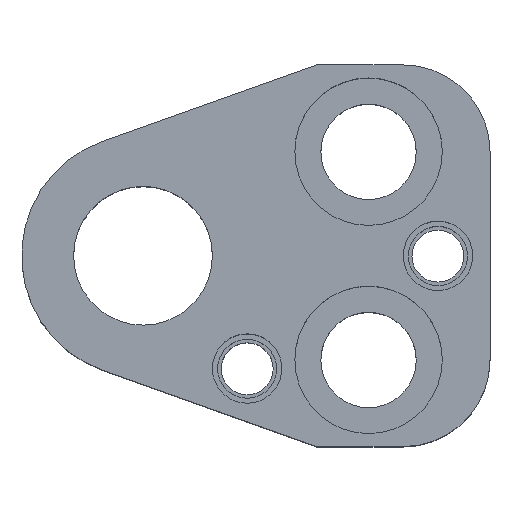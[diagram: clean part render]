
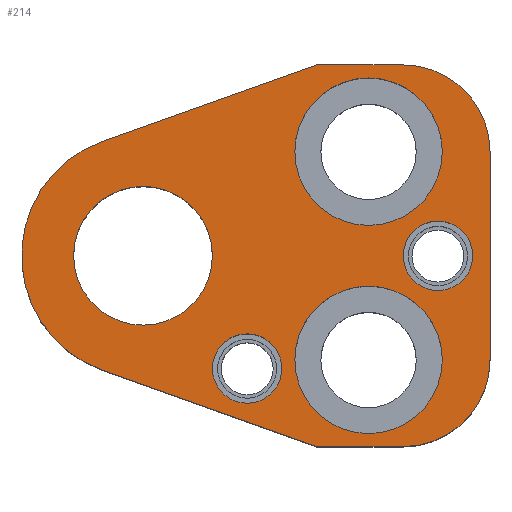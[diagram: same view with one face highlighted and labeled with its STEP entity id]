
A CAD part, top view. The second image highlights one B-rep face of the part: STEP entity #214.
In plain terms, the highlighted planar face has unit normal (0, 0, 1).
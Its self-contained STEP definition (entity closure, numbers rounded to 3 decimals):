
#100=FACE_BOUND('',#305,.T.);
#101=FACE_BOUND('',#306,.T.);
#102=FACE_BOUND('',#307,.T.);
#103=FACE_BOUND('',#308,.T.);
#104=FACE_BOUND('',#309,.T.);
#105=FACE_BOUND('',#310,.T.);
#148=CIRCLE('',#832,10.);
#150=CIRCLE('',#836,10.);
#152=CIRCLE('',#840,4.);
#154=CIRCLE('',#843,4.);
#156=CIRCLE('',#846,4.);
#158=CIRCLE('',#849,4.);
#168=CIRCLE('',#864,14.);
#169=CIRCLE('',#865,8.5);
#170=CIRCLE('',#866,8.5);
#171=CIRCLE('',#867,8.5);
#172=CIRCLE('',#868,8.5);
#173=CIRCLE('',#869,8.);
#174=CIRCLE('',#870,8.);
#214=ADVANCED_FACE('',(#100,#101,#102,#103,#104,#105),#246,.T.);
#246=PLANE('',#871);
#305=EDGE_LOOP('',(#401,#402,#403,#404,#405,#406,#407,#408));
#306=EDGE_LOOP('',(#409,#410));
#307=EDGE_LOOP('',(#411,#412));
#308=EDGE_LOOP('',(#413,#414));
#309=EDGE_LOOP('',(#415,#416));
#310=EDGE_LOOP('',(#417,#418));
#401=ORIENTED_EDGE('',*,*,#627,.T.);
#402=ORIENTED_EDGE('',*,*,#631,.T.);
#403=ORIENTED_EDGE('',*,*,#634,.T.);
#404=ORIENTED_EDGE('',*,*,#637,.T.);
#405=ORIENTED_EDGE('',*,*,#640,.T.);
#406=ORIENTED_EDGE('',*,*,#666,.T.);
#407=ORIENTED_EDGE('',*,*,#667,.T.);
#408=ORIENTED_EDGE('',*,*,#668,.T.);
#409=ORIENTED_EDGE('',*,*,#669,.F.);
#410=ORIENTED_EDGE('',*,*,#670,.F.);
#411=ORIENTED_EDGE('',*,*,#671,.F.);
#412=ORIENTED_EDGE('',*,*,#672,.F.);
#413=ORIENTED_EDGE('',*,*,#652,.F.);
#414=ORIENTED_EDGE('',*,*,#648,.F.);
#415=ORIENTED_EDGE('',*,*,#646,.F.);
#416=ORIENTED_EDGE('',*,*,#642,.F.);
#417=ORIENTED_EDGE('',*,*,#673,.T.);
#418=ORIENTED_EDGE('',*,*,#674,.T.);
#558=VERTEX_POINT('',#1171);
#559=VERTEX_POINT('',#1173);
#562=VERTEX_POINT('',#1180);
#564=VERTEX_POINT('',#1186);
#566=VERTEX_POINT('',#1192);
#568=VERTEX_POINT('',#1198);
#569=VERTEX_POINT('',#1203);
#570=VERTEX_POINT('',#1204);
#573=VERTEX_POINT('',#1215);
#574=VERTEX_POINT('',#1216);
#585=VERTEX_POINT('',#1251);
#586=VERTEX_POINT('',#1253);
#587=VERTEX_POINT('',#1256);
#588=VERTEX_POINT('',#1257);
#589=VERTEX_POINT('',#1260);
#590=VERTEX_POINT('',#1261);
#591=VERTEX_POINT('',#1264);
#592=VERTEX_POINT('',#1265);
#627=EDGE_CURVE('',#559,#558,#731,.T.);
#631=EDGE_CURVE('',#558,#562,#148,.T.);
#634=EDGE_CURVE('',#562,#564,#736,.T.);
#637=EDGE_CURVE('',#564,#566,#150,.T.);
#640=EDGE_CURVE('',#566,#568,#740,.T.);
#642=EDGE_CURVE('',#569,#570,#152,.T.);
#646=EDGE_CURVE('',#570,#569,#154,.T.);
#648=EDGE_CURVE('',#573,#574,#156,.T.);
#652=EDGE_CURVE('',#574,#573,#158,.T.);
#666=EDGE_CURVE('',#568,#585,#750,.T.);
#667=EDGE_CURVE('',#585,#586,#168,.T.);
#668=EDGE_CURVE('',#586,#559,#751,.T.);
#669=EDGE_CURVE('',#587,#588,#169,.T.);
#670=EDGE_CURVE('',#588,#587,#170,.T.);
#671=EDGE_CURVE('',#589,#590,#171,.T.);
#672=EDGE_CURVE('',#590,#589,#172,.T.);
#673=EDGE_CURVE('',#591,#592,#173,.T.);
#674=EDGE_CURVE('',#592,#591,#174,.T.);
#731=LINE('',#1172,#781);
#736=LINE('',#1187,#786);
#740=LINE('',#1199,#790);
#750=LINE('',#1250,#800);
#751=LINE('',#1254,#801);
#781=VECTOR('',#929,1.);
#786=VECTOR('',#942,1.);
#790=VECTOR('',#954,1.);
#800=VECTOR('',#1014,1.);
#801=VECTOR('',#1017,1.);
#832=AXIS2_PLACEMENT_3D('',#1181,#935,#936);
#836=AXIS2_PLACEMENT_3D('',#1193,#947,#948);
#840=AXIS2_PLACEMENT_3D('',#1202,#958,#959);
#843=AXIS2_PLACEMENT_3D('',#1211,#966,#967);
#846=AXIS2_PLACEMENT_3D('',#1214,#972,#973);
#849=AXIS2_PLACEMENT_3D('',#1223,#980,#981);
#864=AXIS2_PLACEMENT_3D('',#1252,#1015,#1016);
#865=AXIS2_PLACEMENT_3D('',#1255,#1018,#1019);
#866=AXIS2_PLACEMENT_3D('',#1258,#1020,#1021);
#867=AXIS2_PLACEMENT_3D('',#1259,#1022,#1023);
#868=AXIS2_PLACEMENT_3D('',#1262,#1024,#1025);
#869=AXIS2_PLACEMENT_3D('',#1263,#1026,#1027);
#870=AXIS2_PLACEMENT_3D('',#1266,#1028,#1029);
#871=AXIS2_PLACEMENT_3D('',#1267,#1030,#1031);
#929=DIRECTION('',(1.,0.,0.));
#935=DIRECTION('',(0.,0.,1.));
#936=DIRECTION('',(-0.707,0.707,0.));
#942=DIRECTION('',(0.,1.,0.));
#947=DIRECTION('',(0.,0.,1.));
#948=DIRECTION('',(-0.707,-0.707,0.));
#954=DIRECTION('',(-1.,0.,0.));
#958=DIRECTION('',(0.,0.,1.));
#959=DIRECTION('',(-1.,0.,0.));
#966=DIRECTION('',(0.,0.,1.));
#967=DIRECTION('',(1.,0.,0.));
#972=DIRECTION('',(0.,0.,1.));
#973=DIRECTION('',(-1.,0.,0.));
#980=DIRECTION('',(0.,0.,1.));
#981=DIRECTION('',(1.,0.,0.));
#1014=DIRECTION('',(-0.942,-0.336,0.));
#1015=DIRECTION('',(0.,0.,1.));
#1016=DIRECTION('',(1.,0.,0.));
#1017=DIRECTION('',(0.942,-0.336,0.));
#1018=DIRECTION('',(0.,0.,1.));
#1019=DIRECTION('',(1.,0.,0.));
#1020=DIRECTION('',(0.,0.,1.));
#1021=DIRECTION('',(-1.,0.,0.));
#1022=DIRECTION('',(0.,0.,1.));
#1023=DIRECTION('',(1.,0.,0.));
#1024=DIRECTION('',(0.,0.,1.));
#1025=DIRECTION('',(-1.,0.,0.));
#1026=DIRECTION('',(0.,0.,-1.));
#1027=DIRECTION('',(-1.,0.,0.));
#1028=DIRECTION('',(0.,0.,-1.));
#1029=DIRECTION('',(1.,0.,0.));
#1030=DIRECTION('',(0.,0.,1.));
#1031=DIRECTION('',(0.942,-0.336,0.));
#1171=CARTESIAN_POINT('',(30.,-22.,30.));
#1172=CARTESIAN_POINT('',(20.,-22.,30.));
#1173=CARTESIAN_POINT('',(20.,-22.,30.));
#1180=CARTESIAN_POINT('',(40.,-12.,30.));
#1181=CARTESIAN_POINT('',(30.,-12.,30.));
#1186=CARTESIAN_POINT('',(40.,12.,30.));
#1187=CARTESIAN_POINT('',(40.,12.,30.));
#1192=CARTESIAN_POINT('',(30.,22.,30.));
#1193=CARTESIAN_POINT('',(30.,12.,30.));
#1198=CARTESIAN_POINT('',(20.,22.,30.));
#1199=CARTESIAN_POINT('',(20.,22.,30.));
#1202=CARTESIAN_POINT('',(12.,-13.,30.));
#1203=CARTESIAN_POINT('',(12.,-17.,30.));
#1204=CARTESIAN_POINT('',(12.,-9.,30.));
#1211=CARTESIAN_POINT('',(12.,-13.,30.));
#1214=CARTESIAN_POINT('',(34.,0.,30.));
#1215=CARTESIAN_POINT('',(34.,-4.,30.));
#1216=CARTESIAN_POINT('',(34.,4.,30.));
#1223=CARTESIAN_POINT('',(34.,0.,30.));
#1250=CARTESIAN_POINT('',(20.,22.,30.));
#1251=CARTESIAN_POINT('',(-4.704,13.186,30.));
#1252=CARTESIAN_POINT('',(0.,0.,30.));
#1253=CARTESIAN_POINT('',(-4.704,-13.186,30.));
#1254=CARTESIAN_POINT('',(20.,-22.,30.));
#1255=CARTESIAN_POINT('',(26.,-12.,30.));
#1256=CARTESIAN_POINT('',(26.,-3.5,30.));
#1257=CARTESIAN_POINT('',(26.,-20.5,30.));
#1258=CARTESIAN_POINT('',(26.,-12.,30.));
#1259=CARTESIAN_POINT('',(26.,12.,30.));
#1260=CARTESIAN_POINT('',(26.,20.5,30.));
#1261=CARTESIAN_POINT('',(26.,3.5,30.));
#1262=CARTESIAN_POINT('',(26.,12.,30.));
#1263=CARTESIAN_POINT('',(0.,0.,30.));
#1264=CARTESIAN_POINT('',(0.,8.,30.));
#1265=CARTESIAN_POINT('',(0.,-8.,30.));
#1266=CARTESIAN_POINT('',(0.,0.,30.));
#1267=CARTESIAN_POINT('',(20.,-22.,30.));
